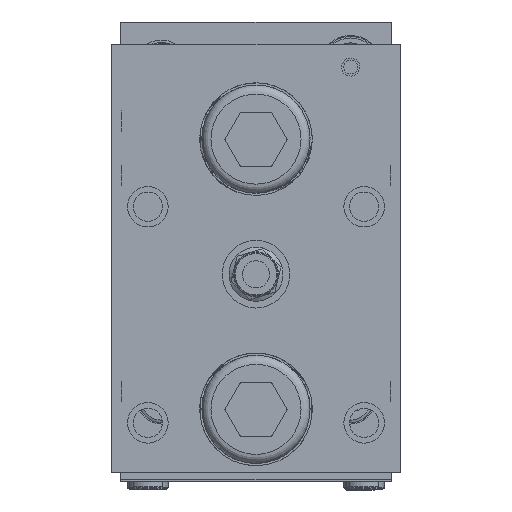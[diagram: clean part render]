
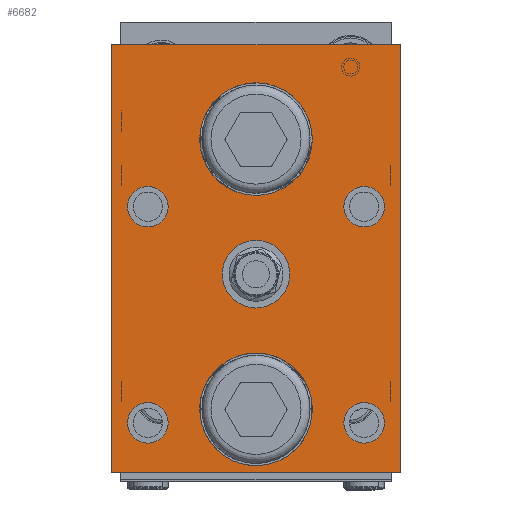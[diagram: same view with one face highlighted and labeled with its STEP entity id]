
A CAD part, front view. The second image highlights one B-rep face of the part: STEP entity #6682.
In plain terms, the highlighted planar face has unit normal (0, -1, 0).
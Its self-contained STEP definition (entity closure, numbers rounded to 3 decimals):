
#4774=CARTESIAN_POINT('',(-30.,-36.,53.5));
#4775=VERTEX_POINT('',#4774);
#4776=CARTESIAN_POINT('',(-30.,-36.,46.));
#4777=DIRECTION('',(0.0,1.0,0.0));
#4778=DIRECTION('',(0.0,0.0,1.0));
#4779=AXIS2_PLACEMENT_3D('',#4776,#4777,#4778);
#4780=CIRCLE('',#4779,7.5);
#4781=EDGE_CURVE('',#4775,#4775,#4780,.T.);
#5234=CARTESIAN_POINT('',(-30.,-36.,28.5));
#5235=VERTEX_POINT('',#5234);
#5236=CARTESIAN_POINT('',(-30.,-36.,16.));
#5237=DIRECTION('',(0.0,1.0,0.0));
#5238=DIRECTION('',(0.0,0.0,1.0));
#5239=AXIS2_PLACEMENT_3D('',#5236,#5237,#5238);
#5240=CIRCLE('',#5239,12.5);
#5241=EDGE_CURVE('',#5235,#5235,#5240,.T.);
#5875=CARTESIAN_POINT('',(-30.,-36.,88.5));
#5876=VERTEX_POINT('',#5875);
#5877=CARTESIAN_POINT('',(-30.,-36.,76.));
#5878=DIRECTION('',(0.0,1.0,0.0));
#5879=DIRECTION('',(0.0,0.0,1.0));
#5880=AXIS2_PLACEMENT_3D('',#5877,#5878,#5879);
#5881=CIRCLE('',#5880,12.5);
#5882=EDGE_CURVE('',#5876,#5876,#5881,.T.);
#5913=CARTESIAN_POINT('',(-6.,-36.,65.5));
#5914=VERTEX_POINT('',#5913);
#5915=CARTESIAN_POINT('',(-6.,-36.,61.));
#5916=DIRECTION('',(0.0,1.0,0.0));
#5917=DIRECTION('',(0.0,0.0,1.0));
#5918=AXIS2_PLACEMENT_3D('',#5915,#5916,#5917);
#5919=CIRCLE('',#5918,4.5);
#5920=EDGE_CURVE('',#5914,#5914,#5919,.T.);
#5982=CARTESIAN_POINT('',(-54.,-36.,17.5));
#5983=VERTEX_POINT('',#5982);
#5984=CARTESIAN_POINT('',(-54.,-36.,13.));
#5985=DIRECTION('',(0.0,1.0,0.0));
#5986=DIRECTION('',(0.0,0.0,1.0));
#5987=AXIS2_PLACEMENT_3D('',#5984,#5985,#5986);
#5988=CIRCLE('',#5987,4.5);
#5989=EDGE_CURVE('',#5983,#5983,#5988,.T.);
#6051=CARTESIAN_POINT('',(-54.,-36.,65.5));
#6052=VERTEX_POINT('',#6051);
#6053=CARTESIAN_POINT('',(-54.,-36.,61.));
#6054=DIRECTION('',(0.0,1.0,0.0));
#6055=DIRECTION('',(0.0,0.0,1.0));
#6056=AXIS2_PLACEMENT_3D('',#6053,#6054,#6055);
#6057=CIRCLE('',#6056,4.5);
#6058=EDGE_CURVE('',#6052,#6052,#6057,.T.);
#6120=CARTESIAN_POINT('',(-6.,-36.,17.5));
#6121=VERTEX_POINT('',#6120);
#6122=CARTESIAN_POINT('',(-6.,-36.,13.));
#6123=DIRECTION('',(0.0,1.0,0.0));
#6124=DIRECTION('',(0.0,0.0,1.0));
#6125=AXIS2_PLACEMENT_3D('',#6122,#6123,#6124);
#6126=CIRCLE('',#6125,4.5);
#6127=EDGE_CURVE('',#6121,#6121,#6126,.T.);
#6544=CARTESIAN_POINT('',(-62.,-36.,2.));
#6545=VERTEX_POINT('',#6544);
#6546=CARTESIAN_POINT('',(-62.,-36.,97.));
#6547=VERTEX_POINT('',#6546);
#6548=CARTESIAN_POINT('',(-62.,-36.,2.));
#6549=DIRECTION('',(0.0,0.0,1.0));
#6550=VECTOR('',#6549,95.0);
#6551=LINE('',#6548,#6550);
#6552=EDGE_CURVE('',#6545,#6547,#6551,.T.);
#6584=CARTESIAN_POINT('',(2.,-36.,97.));
#6585=VERTEX_POINT('',#6584);
#6586=CARTESIAN_POINT('',(-62.,-36.,97.));
#6587=DIRECTION('',(1.0,0.0,0.0));
#6588=VECTOR('',#6587,64.);
#6589=LINE('',#6586,#6588);
#6590=EDGE_CURVE('',#6547,#6585,#6589,.T.);
#6608=CARTESIAN_POINT('',(2.,-36.,2.));
#6609=VERTEX_POINT('',#6608);
#6610=CARTESIAN_POINT('',(2.,-36.,97.));
#6611=DIRECTION('',(0.0,0.0,-1.0));
#6612=VECTOR('',#6611,95.);
#6613=LINE('',#6610,#6612);
#6614=EDGE_CURVE('',#6585,#6609,#6613,.T.);
#6638=CARTESIAN_POINT('',(2.,-36.,2.));
#6639=DIRECTION('',(-1.0,0.0,0.0));
#6640=VECTOR('',#6639,64.0);
#6641=LINE('',#6638,#6640);
#6642=EDGE_CURVE('',#6609,#6545,#6641,.T.);
#6650=CARTESIAN_POINT('',(-30.,-36.,49.5));
#6651=DIRECTION('',(0.0,1.0,0.0));
#6652=DIRECTION('',(0.0,0.0,-1.0));
#6653=AXIS2_PLACEMENT_3D('',#6650,#6651,#6652);
#6654=PLANE('',#6653);
#6655=ORIENTED_EDGE('',*,*,#6552,.F.);
#6656=ORIENTED_EDGE('',*,*,#6642,.F.);
#6657=ORIENTED_EDGE('',*,*,#6614,.F.);
#6658=ORIENTED_EDGE('',*,*,#6590,.F.);
#6659=EDGE_LOOP('',(#6655,#6656,#6657,#6658));
#6660=FACE_OUTER_BOUND('',#6659,.T.);
#6661=ORIENTED_EDGE('',*,*,#4781,.T.);
#6662=EDGE_LOOP('',(#6661));
#6663=FACE_BOUND('',#6662,.T.);
#6664=ORIENTED_EDGE('',*,*,#5241,.T.);
#6665=EDGE_LOOP('',(#6664));
#6666=FACE_BOUND('',#6665,.T.);
#6667=ORIENTED_EDGE('',*,*,#5882,.T.);
#6668=EDGE_LOOP('',(#6667));
#6669=FACE_BOUND('',#6668,.T.);
#6670=ORIENTED_EDGE('',*,*,#5920,.T.);
#6671=EDGE_LOOP('',(#6670));
#6672=FACE_BOUND('',#6671,.T.);
#6673=ORIENTED_EDGE('',*,*,#5989,.T.);
#6674=EDGE_LOOP('',(#6673));
#6675=FACE_BOUND('',#6674,.T.);
#6676=ORIENTED_EDGE('',*,*,#6058,.T.);
#6677=EDGE_LOOP('',(#6676));
#6678=FACE_BOUND('',#6677,.T.);
#6679=ORIENTED_EDGE('',*,*,#6127,.T.);
#6680=EDGE_LOOP('',(#6679));
#6681=FACE_BOUND('',#6680,.T.);
#6682=ADVANCED_FACE('',(#6660,#6663,#6666,#6669,#6672,#6675,#6678,#6681),#6654,.F.);
